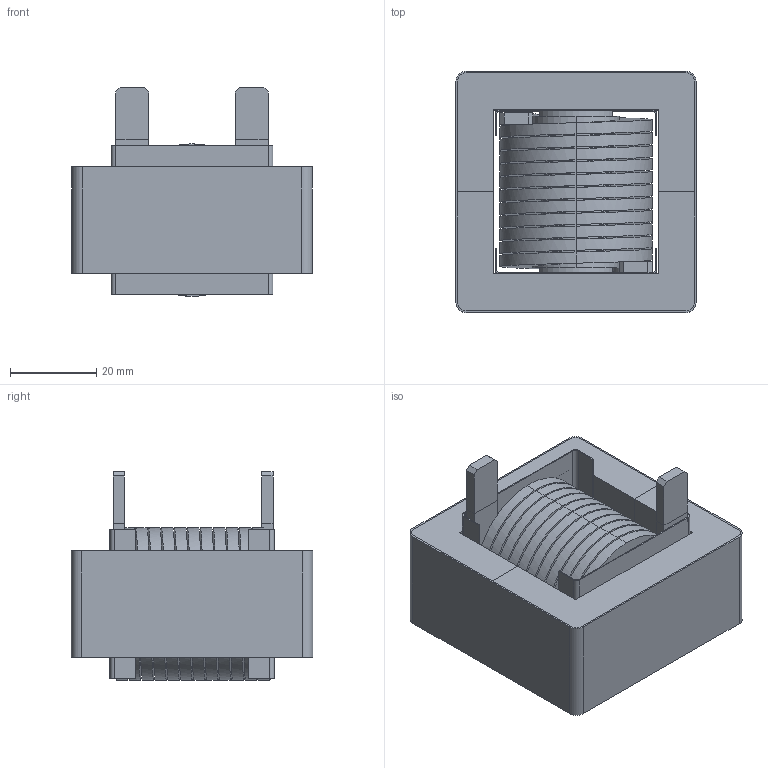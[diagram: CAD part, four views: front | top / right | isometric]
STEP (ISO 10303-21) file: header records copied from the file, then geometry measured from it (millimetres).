
FILE_DESCRIPTION (( 'STEP AP214' ), '1' );
FILE_NAME ('ES55244-210M-180AH.STEP', '2021-05-18T07:15:18', ( '' ), ( '' ), 'SwSTEP 2.0', 'SolidWorks 2015', '' );
FILE_SCHEMA (( 'AUTOMOTIVE_DESIGN' ));
Length unit declared in the file: millimetre
Products named in the file (6): SIDE MYLAR; CENTER MYLAR; HELICAL COIL; E CORE; ES55244-210M-180AH; WRAPPER
Assembly tree (7 placements, depth 2):
  ES55244-210M-180AH
    HELICAL COIL
    E CORE  x2
    SIDE MYLAR  x2
    CENTER MYLAR
    WRAPPER
Bounding box: 55.62 x 55.9 x 48.3 mm (x, y, z)
Volume: 72808.5 mm3; surface area: 57777.5 mm2
Topology: 9 solids, 9 shells, 320 faces, 856 edges, 568 vertices
Faces by surface type: plane 181, cylinder 80, bspline 59
Entity records: 15948 total; most frequent: CARTESIAN_POINT 7338, ORIENTED_EDGE 1544, DIRECTION 1076, EDGE_CURVE 772, VERTEX_POINT 512, VECTOR 508, LINE 508, EDGE_LOOP 310
